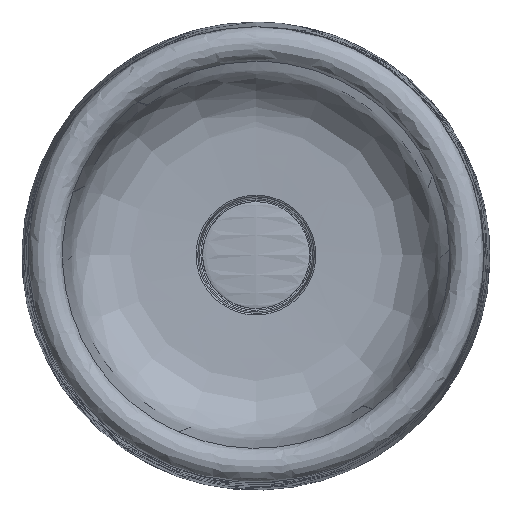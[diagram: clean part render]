
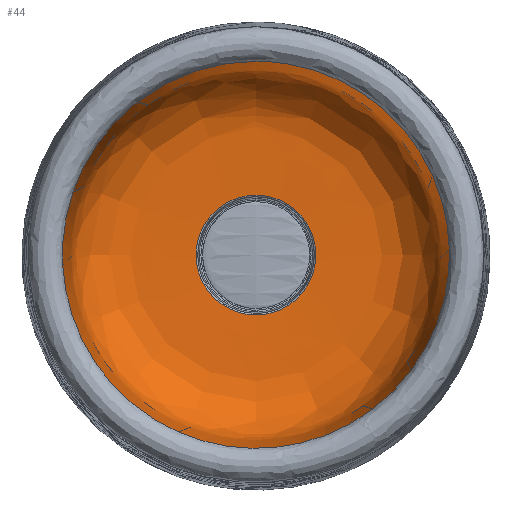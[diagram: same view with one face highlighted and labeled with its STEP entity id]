
A CAD part, top view. The second image highlights one B-rep face of the part: STEP entity #44.
In plain terms, the highlighted free-form (B-spline) face has degree [2, 2] with [9, 7] control points.
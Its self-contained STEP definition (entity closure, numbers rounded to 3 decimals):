
#44=ADVANCED_FACE('',(#61),#256,.T.);
#61=FACE_OUTER_BOUND('',#78,.T.);
#78=EDGE_LOOP('',(#99,#100,#101,#102));
#99=ORIENTED_EDGE('',*,*,#165,.F.);
#100=ORIENTED_EDGE('',*,*,#166,.F.);
#101=ORIENTED_EDGE('',*,*,#165,.T.);
#102=ORIENTED_EDGE('',*,*,#168,.F.);
#165=EDGE_CURVE('',#233,#235,#205,.T.);
#166=EDGE_CURVE('',#233,#233,#206,.T.);
#168=EDGE_CURVE('',#235,#235,#208,.T.);
#205=(
BOUNDED_CURVE()
B_SPLINE_CURVE(2,(#991,#992,#993,#994,#995,#996,#997),.UNSPECIFIED.,.F.,
 .F.)
B_SPLINE_CURVE_WITH_KNOTS((3,2,2,3),(903.778,904.855,1019.99,
1105.783),.UNSPECIFIED.)
CURVE()
GEOMETRIC_REPRESENTATION_ITEM()
RATIONAL_B_SPLINE_CURVE((1.,1.,1.,0.752,1.,1.,1.))
REPRESENTATION_ITEM('')
);
#206=(
BOUNDED_CURVE()
B_SPLINE_CURVE(2,(#998,#999,#1000,#1001,#1002,#1003,#1004,#1005,#1006),
 .UNSPECIFIED.,.T.,.F.)
B_SPLINE_CURVE_WITH_KNOTS((3,2,2,2,3),(-1701.779,-1276.334,
-850.889,-425.445,0.),.UNSPECIFIED.)
CURVE()
GEOMETRIC_REPRESENTATION_ITEM()
RATIONAL_B_SPLINE_CURVE((1.,0.707,1.,0.707,1.,0.707,
1.,0.707,1.))
REPRESENTATION_ITEM('')
);
#208=(
BOUNDED_CURVE()
B_SPLINE_CURVE(2,(#1016,#1017,#1018,#1019,#1020,#1021,#1022,#1023,#1024),
 .UNSPECIFIED.,.T.,.F.)
B_SPLINE_CURVE_WITH_KNOTS((3,2,2,2,3),(0.,108.966,
217.931,326.897,435.863),.UNSPECIFIED.)
CURVE()
GEOMETRIC_REPRESENTATION_ITEM()
RATIONAL_B_SPLINE_CURVE((1.,0.707,1.,0.707,1.,0.707,
1.,0.707,1.))
REPRESENTATION_ITEM('')
);
#233=VERTEX_POINT('',#970);
#235=VERTEX_POINT('',#972);
#256=(
BOUNDED_SURFACE()
B_SPLINE_SURFACE(2,2,((#513,#514,#515,#516,#517,#518,#519),(#520,#521,#522,
#523,#524,#525,#526),(#527,#528,#529,#530,#531,#532,#533),(#534,#535,#536,
#537,#538,#539,#540),(#541,#542,#543,#544,#545,#546,#547),(#548,#549,#550,
#551,#552,#553,#554),(#555,#556,#557,#558,#559,#560,#561),(#562,#563,#564,
#565,#566,#567,#568),(#569,#570,#571,#572,#573,#574,#575)),
 .UNSPECIFIED.,.T.,.F.,.F.)
B_SPLINE_SURFACE_WITH_KNOTS((3,2,2,2,3),(3,2,2,3),(0.,425.445,
850.889,1276.334,1701.779),(903.778,904.855,
1019.99,1110.602),.UNSPECIFIED.)
GEOMETRIC_REPRESENTATION_ITEM()
RATIONAL_B_SPLINE_SURFACE(((1.,1.,1.,0.752,1.,1.,1.),(0.707,
0.707,0.707,0.532,0.707,
0.707,0.707),(1.,1.,1.,0.752,1.,1.,
1.),(0.707,0.707,0.707,0.532,
0.707,0.707,0.707),(1.,1.,1.,0.752,
1.,1.,1.),(0.707,0.707,0.707,0.532,
0.707,0.707,0.707),(1.,1.,1.,0.752,
1.,1.,1.),(0.707,0.707,0.707,0.532,
0.707,0.707,0.707),(1.,1.,1.,0.752,
1.,1.,1.)))
REPRESENTATION_ITEM('')
SURFACE()
);
#513=CARTESIAN_POINT('',(0.,494.82,831.189));
#514=CARTESIAN_POINT('',(0.,489.985,779.566));
#515=CARTESIAN_POINT('',(0.,485.149,727.942));
#516=CARTESIAN_POINT('',(0.,479.09,659.679));
#517=CARTESIAN_POINT('',(0.,416.615,657.311));
#518=CARTESIAN_POINT('',(0.,376.241,655.782));
#519=CARTESIAN_POINT('',(0.,335.868,654.252));
#520=CARTESIAN_POINT('',(223.952,494.82,831.189));
#521=CARTESIAN_POINT('',(219.116,489.985,779.566));
#522=CARTESIAN_POINT('',(214.281,485.149,727.942));
#523=CARTESIAN_POINT('',(208.221,479.09,659.679));
#524=CARTESIAN_POINT('',(145.746,416.615,657.311));
#525=CARTESIAN_POINT('',(105.373,376.241,655.782));
#526=CARTESIAN_POINT('',(65.,335.868,654.252));
#527=CARTESIAN_POINT('',(223.952,270.868,831.189));
#528=CARTESIAN_POINT('',(219.116,270.868,779.566));
#529=CARTESIAN_POINT('',(214.281,270.868,727.942));
#530=CARTESIAN_POINT('',(208.221,270.868,659.679));
#531=CARTESIAN_POINT('',(145.746,270.868,657.311));
#532=CARTESIAN_POINT('',(105.373,270.868,655.782));
#533=CARTESIAN_POINT('',(65.,270.868,654.252));
#534=CARTESIAN_POINT('',(223.952,46.917,831.189));
#535=CARTESIAN_POINT('',(219.116,51.752,779.566));
#536=CARTESIAN_POINT('',(214.281,56.588,727.942));
#537=CARTESIAN_POINT('',(208.221,62.647,659.679));
#538=CARTESIAN_POINT('',(145.746,125.122,657.311));
#539=CARTESIAN_POINT('',(105.373,165.495,655.782));
#540=CARTESIAN_POINT('',(65.,205.868,654.252));
#541=CARTESIAN_POINT('',(0.,46.917,831.189));
#542=CARTESIAN_POINT('',(0.,51.752,779.566));
#543=CARTESIAN_POINT('',(0.,56.588,727.942));
#544=CARTESIAN_POINT('',(0.,62.647,659.679));
#545=CARTESIAN_POINT('',(0.,125.122,657.311));
#546=CARTESIAN_POINT('',(0.,165.495,655.782));
#547=CARTESIAN_POINT('',(0.,205.868,654.252));
#548=CARTESIAN_POINT('',(-223.952,46.917,831.189));
#549=CARTESIAN_POINT('',(-219.116,51.752,779.566));
#550=CARTESIAN_POINT('',(-214.281,56.588,727.942));
#551=CARTESIAN_POINT('',(-208.221,62.647,659.679));
#552=CARTESIAN_POINT('',(-145.746,125.122,657.311));
#553=CARTESIAN_POINT('',(-105.373,165.495,655.782));
#554=CARTESIAN_POINT('',(-65.,205.868,654.252));
#555=CARTESIAN_POINT('',(-223.952,270.868,831.189));
#556=CARTESIAN_POINT('',(-219.116,270.868,779.566));
#557=CARTESIAN_POINT('',(-214.281,270.868,727.942));
#558=CARTESIAN_POINT('',(-208.221,270.868,659.679));
#559=CARTESIAN_POINT('',(-145.746,270.868,657.311));
#560=CARTESIAN_POINT('',(-105.373,270.868,655.782));
#561=CARTESIAN_POINT('',(-65.,270.868,654.252));
#562=CARTESIAN_POINT('',(-223.952,494.82,831.189));
#563=CARTESIAN_POINT('',(-219.116,489.985,779.566));
#564=CARTESIAN_POINT('',(-214.281,485.149,727.942));
#565=CARTESIAN_POINT('',(-208.221,479.09,659.679));
#566=CARTESIAN_POINT('',(-145.746,416.615,657.311));
#567=CARTESIAN_POINT('',(-105.373,376.241,655.782));
#568=CARTESIAN_POINT('',(-65.,335.868,654.252));
#569=CARTESIAN_POINT('',(0.,494.82,831.189));
#570=CARTESIAN_POINT('',(0.,489.985,779.566));
#571=CARTESIAN_POINT('',(0.,485.149,727.942));
#572=CARTESIAN_POINT('',(0.,479.09,659.679));
#573=CARTESIAN_POINT('',(0.,416.615,657.311));
#574=CARTESIAN_POINT('',(0.,376.241,655.782));
#575=CARTESIAN_POINT('',(0.,335.868,654.252));
#970=CARTESIAN_POINT('',(0.,494.82,831.189));
#972=CARTESIAN_POINT('',(0.,340.163,654.415));
#991=CARTESIAN_POINT('',(0.,494.82,831.189));
#992=CARTESIAN_POINT('',(0.,489.985,779.566));
#993=CARTESIAN_POINT('',(0.,485.149,727.942));
#994=CARTESIAN_POINT('',(0.,479.09,659.679));
#995=CARTESIAN_POINT('',(0.,416.615,657.311));
#996=CARTESIAN_POINT('',(0.,378.389,655.863));
#997=CARTESIAN_POINT('',(0.,340.163,654.415));
#998=CARTESIAN_POINT('',(0.,494.82,831.189));
#999=CARTESIAN_POINT('',(-223.952,494.82,831.189));
#1000=CARTESIAN_POINT('',(-223.952,270.868,831.189));
#1001=CARTESIAN_POINT('',(-223.952,46.917,831.189));
#1002=CARTESIAN_POINT('',(0.,46.917,831.189));
#1003=CARTESIAN_POINT('',(223.952,46.917,831.189));
#1004=CARTESIAN_POINT('',(223.952,270.868,831.189));
#1005=CARTESIAN_POINT('',(223.952,494.82,831.189));
#1006=CARTESIAN_POINT('',(0.,494.82,831.189));
#1016=CARTESIAN_POINT('',(0.,340.163,654.415));
#1017=CARTESIAN_POINT('',(69.294,340.163,654.415));
#1018=CARTESIAN_POINT('',(69.294,270.868,654.415));
#1019=CARTESIAN_POINT('',(69.294,201.574,654.415));
#1020=CARTESIAN_POINT('',(0.,201.574,654.415));
#1021=CARTESIAN_POINT('',(-69.294,201.574,654.415));
#1022=CARTESIAN_POINT('',(-69.294,270.868,654.415));
#1023=CARTESIAN_POINT('',(-69.294,340.163,654.415));
#1024=CARTESIAN_POINT('',(0.,340.163,654.415));
